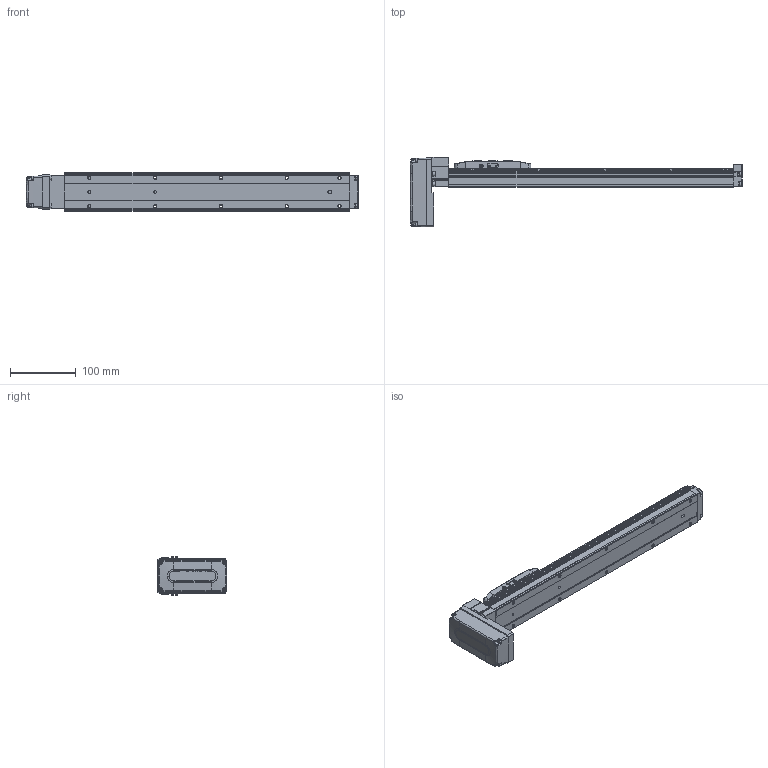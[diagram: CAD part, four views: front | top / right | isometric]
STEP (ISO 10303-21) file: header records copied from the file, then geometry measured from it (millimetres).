
FILE_DESCRIPTION (( 'STEP AP203' ), '1' );
FILE_NAME ('EFS-05D_P.STEP', '2025-07-17T05:33:23', ( '' ), ( '' ), 'SwSTEP 2.0', 'SolidWorks 2024', '' );
FILE_SCHEMA (( 'CONFIG_CONTROL_DESIGN' ));
Length unit declared in the file: millimetre
Products named in the file (1): EFS-05D_P
Bounding box: 504 x 106.09 x 58 mm (x, y, z)
Volume: 893397.7 mm3; surface area: 164351.1 mm2
Topology: 21 solids, 21 shells, 1408 faces, 3555 edges, 2203 vertices
Faces by surface type: plane 595, cylinder 494, cone 124, torus 88, bspline 81, sphere 26
Entity records: 45141 total; most frequent: CARTESIAN_POINT 12279, ORIENTED_EDGE 6998, DIRECTION 6648, EDGE_CURVE 3499, AXIS2_PLACEMENT_3D 2391, VERTEX_POINT 2203, LINE 1866, VECTOR 1866
